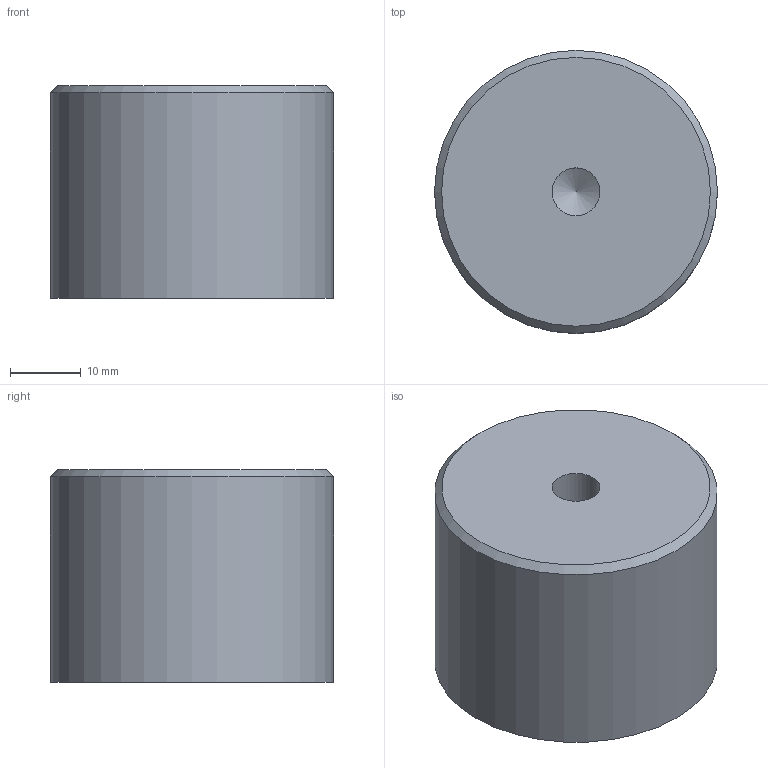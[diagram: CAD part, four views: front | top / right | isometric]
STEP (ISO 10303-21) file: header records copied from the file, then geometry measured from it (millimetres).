
FILE_DESCRIPTION(/* description */ (''),/* implementation_level */ '2;1');
FILE_NAME(/* name */ 'C:/Users/hiroshi_y/Documents/Fusion 360/PMH-1-40x30.step',/* time_stamp */ '2022-11-28T16:49:50+09:00',/* author */ (''),/* organization */ (''),/* preprocessor_version */ 'ST-DEVELOPER v19',/* originating_system */ 'Autodesk Translation Framework v11.7.0.108',/* authorisation */ '');
FILE_SCHEMA (('AUTOMOTIVE_DESIGN { 1 0 10303 214 3 1 1 }'));
Length unit declared in the file: millimetre
Products named in the file (1): PMH-1-40x30
Bounding box: 40 x 40 x 30 mm (x, y, z)
Volume: 37310.5 mm3; surface area: 6390.4 mm2
Topology: 1 solids, 1 shells, 32 faces, 73 edges, 48 vertices
Faces by surface type: plane 27, cylinder 3, cone 2
Full cylindrical faces by diameter (mm): 6.779 x1, 34 x1, 40 x1
Entity records: 931 total; most frequent: CARTESIAN_POINT 153, DIRECTION 145, ORIENTED_EDGE 144, EDGE_CURVE 72, LINE 65, VECTOR 65, VERTEX_POINT 48, AXIS2_PLACEMENT_3D 40
